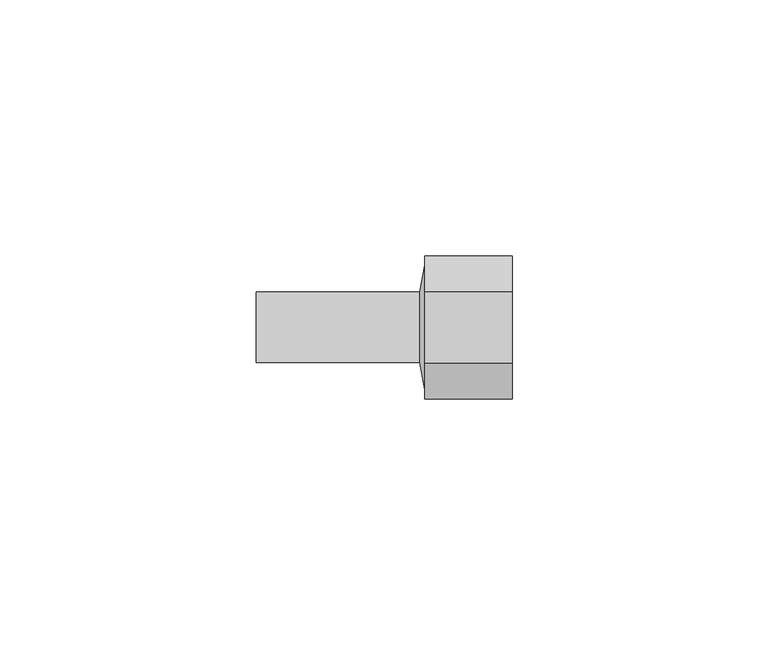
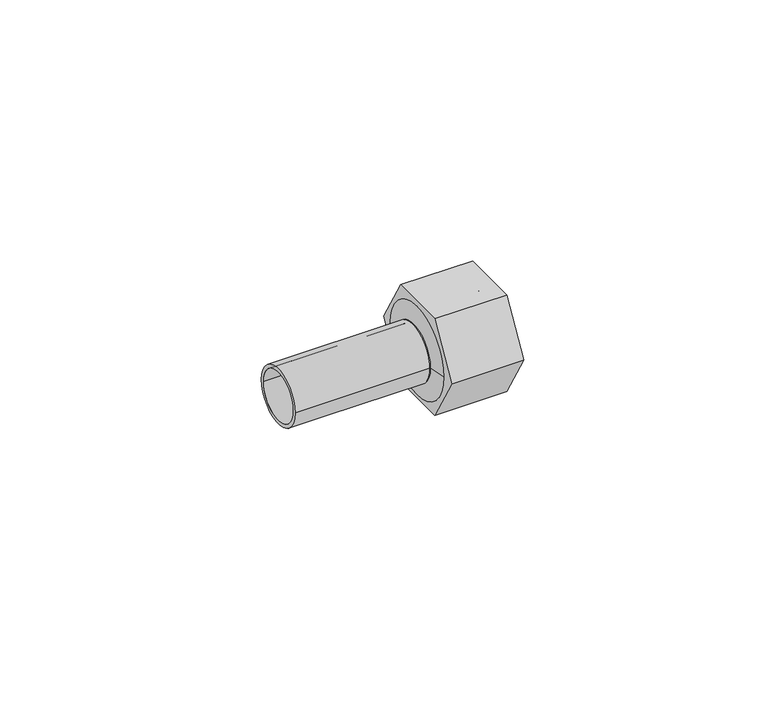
"""IFC4 building model written with IfcOpenShell, lengths in millimetres: pipe fitting geometry, VALTEC_VTi.907.I_Вставка с внутренней резьбой_Нержавеющая сталь : VTi.907.I."""

from ifc_helpers import new_model, si_unit, point, frame, origin, origin_2d, place, context, project, spatial, polyline, circle_curve, trimmed, segment, composite_curve, outline, extrude, source, transform, mapped, element, save
from ifc_brep_helpers import plane_surface, revolved_surface, advanced_brep


def pipe_fitting_662d1c57(model_context):
    return source(origin(), model_context, "Body", "SolidModel", [
        extrude(outline(polyline([(-13.989197, 0.0), (-6.9945985, 12.115), (6.9945985, 12.115), (13.989197, 0.0), (6.9945985, -12.115), (-6.9945985, -12.115), (-13.989197, 0.0)]), holes=[composite_curve([segment(trimmed(circle_curve(origin_2d(), 7.5), [point((7.5, 0.0))], [point((-7.5, 0.0))], True, "CARTESIAN"), True, "CONTINUOUS"), segment(trimmed(circle_curve(origin_2d(), 7.5), [point((-7.5, 0.0))], [point((7.5, 0.0))], True, "CARTESIAN"), True, "CONTINUOUS")], self_intersect=False)]), frame((-8.5, 0.0, 0.0), z_axis=(1.0, 0.0, 0.0), x_axis=(0.0, 1.0, 0.0)), (0.0, 0.0, 1.0), 17.0),
        advanced_brep(
        [(-8.5, -12.115, 0.0), (-8.5, 12.115, 0.0), (-9.5, -6.9, 0.0), (-9.5, 6.9, 0.0)],
        [
            (0, 1, circle_curve(frame((-8.5, 0.0, 0.0), z_axis=(1.0, 0.0, 0.0), x_axis=(0.0, -1.0, 0.0)), 12.115)),
            (1, 0, circle_curve(frame((-8.5, 0.0, 0.0), z_axis=(1.0, 0.0, 0.0), x_axis=(0.0, 1.0, 0.0)), 12.115)),
            (2, 3, circle_curve(frame((-9.5, 0.0, 0.0), z_axis=(-1.0, 0.0, 0.0), x_axis=(0.0, 1.0, 0.0)), 6.9)),
            (3, 2, circle_curve(frame((-9.5, 0.0, 0.0), z_axis=(-1.0, 0.0, 0.0), x_axis=(0.0, -1.0, 0.0)), 6.9)),
            (3, 1),
            (0, 2),
        ],
        [
            plane_surface(frame((-8.5, 0.0, 0.0), z_axis=(1.0, 0.0, 0.0), x_axis=(0.0, 0.0, -1.0))),
            plane_surface(frame((-9.5, 0.0, 0.0), z_axis=(-1.0, 0.0, 0.0), x_axis=(0.0, 0.0, -1.0))),
            revolved_surface(polyline([(-9.5, 6.899999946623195, 0.0), (-8.5, 12.115, 0.0)]), (-10.8231064, 0.0, 0.0), (1.0, 0.0, 0.0)),
            revolved_surface(polyline([(-9.5, -6.899999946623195, 0.0), (-8.5, -12.115, 0.0)]), (-10.8231064, 0.0, 0.0), (1.0, 0.0, 0.0)),
        ],
        [
            (0, [[1, 2]]),
            (1, [[3, 4]]),
            (2, [[-4, 5, -1, 6]]),
            (3, [[-3, -6, -2, -5]]),
        ],
    ),
        extrude(outline(composite_curve([segment(trimmed(circle_curve(origin_2d(), 6.9), [point((-6.9, 0.0))], [point((6.9, 0.0))], False, "CARTESIAN"), True, "CONTINUOUS"), segment(trimmed(circle_curve(origin_2d(), 6.9), [point((6.9, 0.0))], [point((-6.9, 0.0))], False, "CARTESIAN"), True, "CONTINUOUS")], self_intersect=False), holes=[composite_curve([segment(trimmed(circle_curve(origin_2d(), 6.0), [point((-6.0, 0.0))], [point((6.0, 0.0))], True, "CARTESIAN"), True, "CONTINUOUS"), segment(trimmed(circle_curve(origin_2d(), 6.0), [point((6.0, 0.0))], [point((-6.0, 0.0))], True, "CARTESIAN"), True, "CONTINUOUS")], self_intersect=False)]), frame((-41.5, 0.0, 0.0), z_axis=(1.0, 0.0, 0.0), x_axis=(0.0, 1.0, 0.0)), (0.0, 0.0, 1.0), 32.0),
    ])


if __name__ == "__main__":
    model = new_model("IFC4")
    model_context = context("Model", 3, world=origin())
    ifc_project = project(units=[si_unit("LENGTHUNIT", "METRE", prefix="MILLI")], contexts=[model_context])
    site = spatial("IfcSite", under=ifc_project)
    building = spatial("IfcBuilding", under=site)
    placement = place(None, origin())
    pipe_fitting_shape = pipe_fitting_662d1c57(model_context)
    element("IfcPipeFitting", 1, ObjectType="VALTEC_VTi.907.I_Вставка с внутренней резьбой_Нержавеющая сталь : VTi.907.I", at=placement, inside=building, context=model_context, shape_type="MappedRepresentation", body=[
        mapped(pipe_fitting_shape, transform((0.0, 0.0, 0.0), x_axis=(1.0, 0.0, 0.0), y_axis=(0.0, 1.0, 0.0), z_axis=(0.0, 0.0, 1.0))),
    ])
    save(model, "model.ifc")
